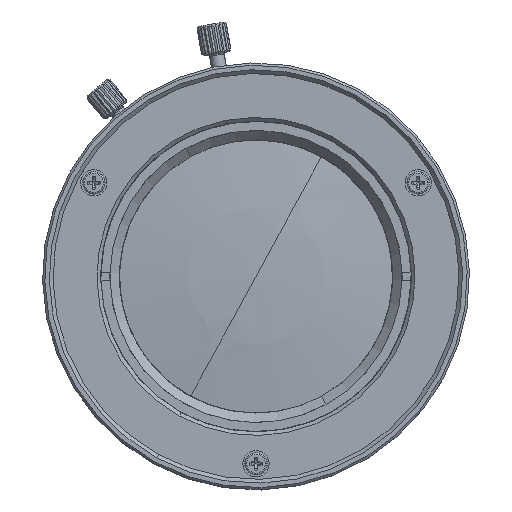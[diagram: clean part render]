
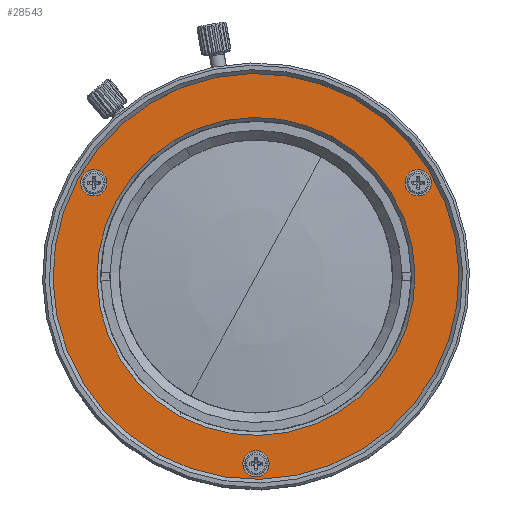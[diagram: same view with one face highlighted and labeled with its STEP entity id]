
A CAD part, top view. The second image highlights one B-rep face of the part: STEP entity #28543.
In plain terms, the highlighted planar face has unit normal (0, 0, 1).
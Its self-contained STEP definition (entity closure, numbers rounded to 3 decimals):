
#28428=CARTESIAN_POINT('Vertex',(-13.184,-24.134,111.6)) ;
#28431=CARTESIAN_POINT('Axis2P3D Location',(0.,0.,111.6)) ;
#28435=CARTESIAN_POINT('Vertex',(13.184,24.134,111.6)) ;
#28450=CARTESIAN_POINT('Axis2P3D Location',(0.,0.,111.6)) ;
#28462=CARTESIAN_POINT('Axis2P3D Location',(0.,20.73,111.6)) ;
#28471=CARTESIAN_POINT('Axis2P3D Location',(0.,0.,111.6)) ;
#28475=CARTESIAN_POINT('Vertex',(-10.178,-18.631,111.6)) ;
#28477=CARTESIAN_POINT('Vertex',(10.178,18.631,111.6)) ;
#28480=CARTESIAN_POINT('Axis2P3D Location',(0.,0.,111.6)) ;
#28489=CARTESIAN_POINT('Axis2P3D Location',(0.,-25.,111.6)) ;
#28493=CARTESIAN_POINT('Vertex',(-1.75,-25.,111.6)) ;
#28495=CARTESIAN_POINT('Vertex',(1.75,-25.,111.6)) ;
#28498=CARTESIAN_POINT('Axis2P3D Location',(0.,-25.,111.6)) ;
#28507=CARTESIAN_POINT('Axis2P3D Location',(21.651,12.5,111.6)) ;
#28511=CARTESIAN_POINT('Vertex',(22.526,10.984,111.6)) ;
#28513=CARTESIAN_POINT('Vertex',(20.776,14.016,111.6)) ;
#28516=CARTESIAN_POINT('Axis2P3D Location',(21.651,12.5,111.6)) ;
#28525=CARTESIAN_POINT('Axis2P3D Location',(-21.651,12.5,111.6)) ;
#28529=CARTESIAN_POINT('Vertex',(-20.776,14.016,111.6)) ;
#28531=CARTESIAN_POINT('Vertex',(-22.526,10.984,111.6)) ;
#28534=CARTESIAN_POINT('Axis2P3D Location',(-21.651,12.5,111.6)) ;
#28432=DIRECTION('Axis2P3D Direction',(0.,0.,-1.)) ;
#28451=DIRECTION('Axis2P3D Direction',(0.,0.,-1.)) ;
#28463=DIRECTION('Axis2P3D Direction',(0.,0.,-1.)) ;
#28464=DIRECTION('Axis2P3D XDirection',(1.,0.,0.)) ;
#28472=DIRECTION('Axis2P3D Direction',(0.,0.,-1.)) ;
#28481=DIRECTION('Axis2P3D Direction',(0.,0.,-1.)) ;
#28490=DIRECTION('Axis2P3D Direction',(0.,0.,-1.)) ;
#28499=DIRECTION('Axis2P3D Direction',(0.,0.,-1.)) ;
#28508=DIRECTION('Axis2P3D Direction',(0.,0.,-1.)) ;
#28517=DIRECTION('Axis2P3D Direction',(0.,0.,-1.)) ;
#28526=DIRECTION('Axis2P3D Direction',(0.,0.,-1.)) ;
#28535=DIRECTION('Axis2P3D Direction',(0.,0.,-1.)) ;
#28433=AXIS2_PLACEMENT_3D('Circle Axis2P3D',#28431,#28432,$) ;
#28452=AXIS2_PLACEMENT_3D('Circle Axis2P3D',#28450,#28451,$) ;
#28465=AXIS2_PLACEMENT_3D('Plane Axis2P3D',#28462,#28463,#28464) ;
#28473=AXIS2_PLACEMENT_3D('Circle Axis2P3D',#28471,#28472,$) ;
#28482=AXIS2_PLACEMENT_3D('Circle Axis2P3D',#28480,#28481,$) ;
#28491=AXIS2_PLACEMENT_3D('Circle Axis2P3D',#28489,#28490,$) ;
#28500=AXIS2_PLACEMENT_3D('Circle Axis2P3D',#28498,#28499,$) ;
#28509=AXIS2_PLACEMENT_3D('Circle Axis2P3D',#28507,#28508,$) ;
#28518=AXIS2_PLACEMENT_3D('Circle Axis2P3D',#28516,#28517,$) ;
#28527=AXIS2_PLACEMENT_3D('Circle Axis2P3D',#28525,#28526,$) ;
#28536=AXIS2_PLACEMENT_3D('Circle Axis2P3D',#28534,#28535,$) ;
#28468=ORIENTED_EDGE('',*,*,#28454,.F.) ;
#28469=ORIENTED_EDGE('',*,*,#28437,.F.) ;
#28486=ORIENTED_EDGE('',*,*,#28479,.T.) ;
#28487=ORIENTED_EDGE('',*,*,#28484,.T.) ;
#28504=ORIENTED_EDGE('',*,*,#28497,.T.) ;
#28505=ORIENTED_EDGE('',*,*,#28502,.T.) ;
#28522=ORIENTED_EDGE('',*,*,#28515,.T.) ;
#28523=ORIENTED_EDGE('',*,*,#28520,.T.) ;
#28540=ORIENTED_EDGE('',*,*,#28533,.T.) ;
#28541=ORIENTED_EDGE('',*,*,#28538,.T.) ;
#28488=FACE_BOUND('',#28485,.T.) ;
#28506=FACE_BOUND('',#28503,.T.) ;
#28524=FACE_BOUND('',#28521,.T.) ;
#28542=FACE_BOUND('',#28539,.T.) ;
#28543=ADVANCED_FACE('\X2\FF8AFF9FFF70FF82\X0\ \X2\FF8EFF9EFF83FF9EFF68FF70\X0\',(#28470,#28488,#28506,#28524,#28542),#28466,.F.) ;
#28434=CIRCLE('generated circle',#28433,27.5) ;
#28453=CIRCLE('generated circle',#28452,27.5) ;
#28474=CIRCLE('generated circle',#28473,21.23) ;
#28483=CIRCLE('generated circle',#28482,21.23) ;
#28492=CIRCLE('generated circle',#28491,1.75) ;
#28501=CIRCLE('generated circle',#28500,1.75) ;
#28510=CIRCLE('generated circle',#28509,1.75) ;
#28519=CIRCLE('generated circle',#28518,1.75) ;
#28528=CIRCLE('generated circle',#28527,1.75) ;
#28537=CIRCLE('generated circle',#28536,1.75) ;
#28437=EDGE_CURVE('',#28429,#28436,#28434,.T.) ;
#28454=EDGE_CURVE('',#28436,#28429,#28453,.T.) ;
#28479=EDGE_CURVE('',#28476,#28478,#28474,.T.) ;
#28484=EDGE_CURVE('',#28478,#28476,#28483,.T.) ;
#28497=EDGE_CURVE('',#28494,#28496,#28492,.T.) ;
#28502=EDGE_CURVE('',#28496,#28494,#28501,.T.) ;
#28515=EDGE_CURVE('',#28512,#28514,#28510,.T.) ;
#28520=EDGE_CURVE('',#28514,#28512,#28519,.T.) ;
#28533=EDGE_CURVE('',#28530,#28532,#28528,.T.) ;
#28538=EDGE_CURVE('',#28532,#28530,#28537,.T.) ;
#28467=EDGE_LOOP('',(#28468,#28469)) ;
#28485=EDGE_LOOP('',(#28486,#28487)) ;
#28503=EDGE_LOOP('',(#28504,#28505)) ;
#28521=EDGE_LOOP('',(#28522,#28523)) ;
#28539=EDGE_LOOP('',(#28540,#28541)) ;
#28470=FACE_OUTER_BOUND('',#28467,.T.) ;
#28466=PLANE('Plane',#28465) ;
#28429=VERTEX_POINT('',#28428) ;
#28436=VERTEX_POINT('',#28435) ;
#28476=VERTEX_POINT('',#28475) ;
#28478=VERTEX_POINT('',#28477) ;
#28494=VERTEX_POINT('',#28493) ;
#28496=VERTEX_POINT('',#28495) ;
#28512=VERTEX_POINT('',#28511) ;
#28514=VERTEX_POINT('',#28513) ;
#28530=VERTEX_POINT('',#28529) ;
#28532=VERTEX_POINT('',#28531) ;
